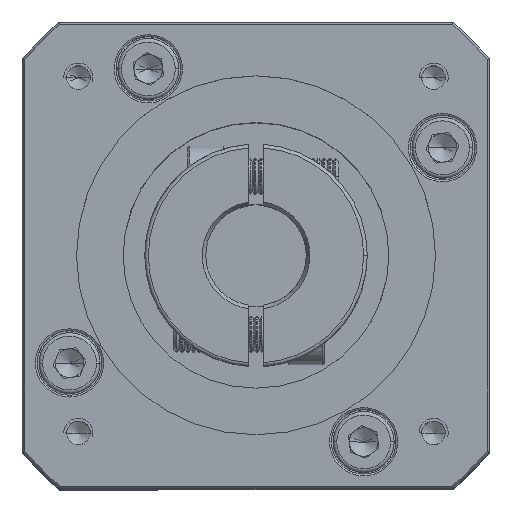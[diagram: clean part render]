
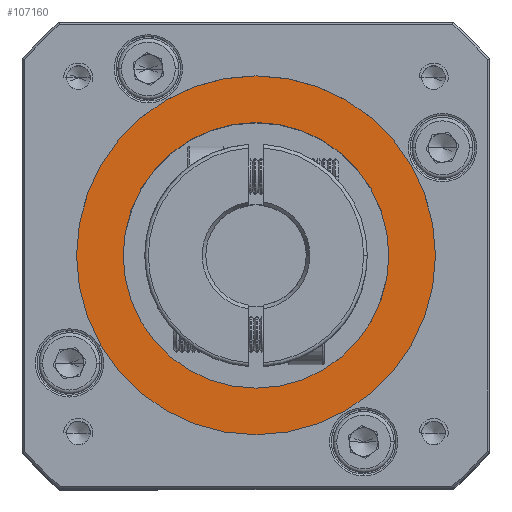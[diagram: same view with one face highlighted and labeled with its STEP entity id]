
A CAD part, top view. The second image highlights one B-rep face of the part: STEP entity #107160.
In plain terms, the highlighted planar face has unit normal (0, 0, 1).
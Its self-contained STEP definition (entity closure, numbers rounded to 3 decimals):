
#95 = AXIS2_PLACEMENT_3D ( 'NONE', #87597, #2520, #98403 ) ;
#2520 = DIRECTION ( 'NONE',  ( 0., 0., -1. ) ) ;
#9470 = PLANE ( 'NONE',  #99559 ) ;
#12255 = ORIENTED_EDGE ( 'NONE', *, *, #52686, .T. ) ;
#12549 = DIRECTION ( 'NONE',  ( 1., 0., 0. ) ) ;
#18628 = CIRCLE ( 'NONE', #97617, 25. ) ;
#19065 = AXIS2_PLACEMENT_3D ( 'NONE', #68436, #31175, #59688 ) ;
#22566 = DIRECTION ( 'NONE',  ( 0., 0., 1. ) ) ;
#31175 = DIRECTION ( 'NONE',  ( 0., 0., -1. ) ) ;
#34759 = CARTESIAN_POINT ( 'NONE',  ( -26.59, 29.291, 0.97 ) ) ;
#40175 = EDGE_LOOP ( 'NONE', ( #74370, #56514 ) ) ;
#43155 = ORIENTED_EDGE ( 'NONE', *, *, #102163, .T. ) ;
#47961 = EDGE_CURVE ( 'NONE', #104415, #104746, #64309, .T. ) ;
#52686 = EDGE_CURVE ( 'NONE', #68364, #66056, #77011, .T. ) ;
#56514 = ORIENTED_EDGE ( 'NONE', *, *, #47961, .T. ) ;
#59688 = DIRECTION ( 'NONE',  ( 1., 0., 0. ) ) ;
#64309 = CIRCLE ( 'NONE', #111271, 25. ) ;
#65623 = CARTESIAN_POINT ( 'NONE',  ( -20.09, 29.291, 0.97 ) ) ;
#66056 = VERTEX_POINT ( 'NONE', #34759 ) ;
#66320 = EDGE_CURVE ( 'NONE', #104746, #104415, #18628, .T. ) ;
#67497 = DIRECTION ( 'NONE',  ( 0., 0., 1. ) ) ;
#68364 = VERTEX_POINT ( 'NONE', #112192 ) ;
#68436 = CARTESIAN_POINT ( 'NONE',  ( -45.09, 29.291, 0.97 ) ) ;
#70468 = CARTESIAN_POINT ( 'NONE',  ( -45.09, 29.291, 0.97 ) ) ;
#74370 = ORIENTED_EDGE ( 'NONE', *, *, #66320, .T. ) ;
#77011 = CIRCLE ( 'NONE', #95, 18.5 ) ;
#79982 = DIRECTION ( 'NONE',  ( 0., 0., 1. ) ) ;
#81000 = EDGE_LOOP ( 'NONE', ( #43155, #12255 ) ) ;
#87369 = FACE_OUTER_BOUND ( 'NONE', #40175, .T. ) ;
#87597 = CARTESIAN_POINT ( 'NONE',  ( -45.09, 29.291, 0.97 ) ) ;
#89604 = DIRECTION ( 'NONE',  ( 1., 0., 0. ) ) ;
#96092 = CARTESIAN_POINT ( 'NONE',  ( -70.09, 29.291, 0.97 ) ) ;
#96610 = DIRECTION ( 'NONE',  ( 1., 0., 0. ) ) ;
#97617 = AXIS2_PLACEMENT_3D ( 'NONE', #98053, #22566, #12549 ) ;
#98053 = CARTESIAN_POINT ( 'NONE',  ( -45.09, 29.291, 0.97 ) ) ;
#98403 = DIRECTION ( 'NONE',  ( 1., 0., 0. ) ) ;
#99559 = AXIS2_PLACEMENT_3D ( 'NONE', #123603, #67497, #96610 ) ;
#102163 = EDGE_CURVE ( 'NONE', #66056, #68364, #111952, .T. ) ;
#104415 = VERTEX_POINT ( 'NONE', #96092 ) ;
#104746 = VERTEX_POINT ( 'NONE', #65623 ) ;
#106664 = FACE_BOUND ( 'NONE', #81000, .T. ) ;
#107160 = ADVANCED_FACE ( 'NONE', ( #87369, #106664 ), #9470, .T. ) ;
#111271 = AXIS2_PLACEMENT_3D ( 'NONE', #70468, #79982, #89604 ) ;
#111952 = CIRCLE ( 'NONE', #19065, 18.5 ) ;
#112192 = CARTESIAN_POINT ( 'NONE',  ( -63.59, 29.291, 0.97 ) ) ;
#123603 = CARTESIAN_POINT ( 'NONE',  ( -45.09, 29.291, 0.97 ) ) ;
